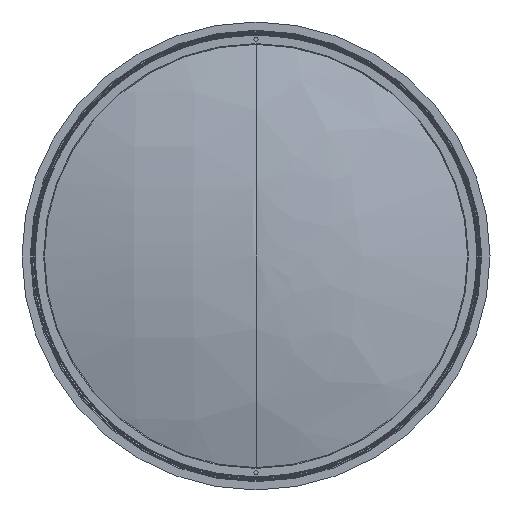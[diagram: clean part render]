
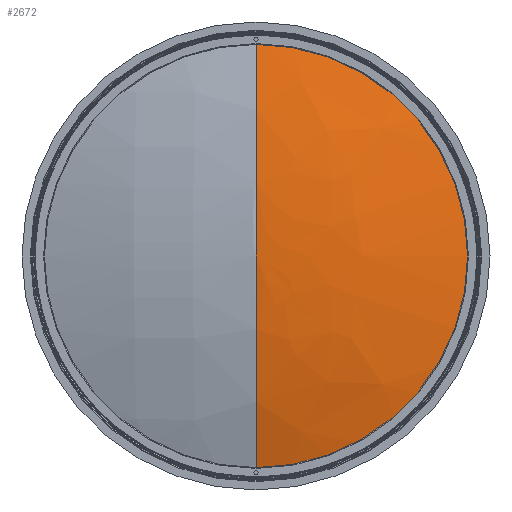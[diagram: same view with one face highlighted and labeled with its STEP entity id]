
A CAD part, left-side view. The second image highlights one B-rep face of the part: STEP entity #2672.
In plain terms, the highlighted free-form (B-spline) face has degree [2, 2] with [3, 5] control points.
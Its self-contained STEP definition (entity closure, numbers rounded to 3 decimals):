
#2672=ADVANCED_FACE('',(#5507),#5508,.F.);
#5507=FACE_OUTER_BOUND('',#18676,.T.);
#5508=(B_SPLINE_SURFACE(2,2,((#18678,#18679,#18680,#18681,#18682),(#18683,#18684,#18685,#18686,#18687),(#18688,#18689,#18690,#18691,#18692)),.UNSPECIFIED.,.F.,.F.,.F.)B_SPLINE_SURFACE_WITH_KNOTS((3,3),(3,2,3),(0.0,0.101),(0.0,0.25,0.5),.UNSPECIFIED.)RATIONAL_B_SPLINE_SURFACE(((1.0,0.707,1.0,0.707,1.0),(0.94,0.665,0.94,0.665,0.94),(0.904,0.639,0.904,0.639,0.904)))BOUNDED_SURFACE()REPRESENTATION_ITEM('')GEOMETRIC_REPRESENTATION_ITEM()SURFACE());
#18676=EDGE_LOOP('',(#26474,#26475,#26476));
#18678=CARTESIAN_POINT('',(-394.621,-683.368,0.));
#18679=CARTESIAN_POINT('',(-394.621,-683.368,0.));
#18680=CARTESIAN_POINT('',(-394.621,-683.368,0.));
#18681=CARTESIAN_POINT('',(-394.621,-683.368,0.));
#18682=CARTESIAN_POINT('',(-394.621,-683.368,0.));
#18683=CARTESIAN_POINT('',(-395.622,-656.145,0.));
#18684=CARTESIAN_POINT('',(-395.622,-656.145,-27.24));
#18685=CARTESIAN_POINT('',(-394.351,-683.355,-27.24));
#18686=CARTESIAN_POINT('',(-393.08,-710.565,-27.24));
#18687=CARTESIAN_POINT('',(-393.08,-710.565,0.));
#18688=CARTESIAN_POINT('',(-404.737,-630.475,0.));
#18689=CARTESIAN_POINT('',(-404.737,-630.475,-53.308));
#18690=CARTESIAN_POINT('',(-402.249,-683.724,-53.308));
#18691=CARTESIAN_POINT('',(-399.761,-736.974,-53.308));
#18692=CARTESIAN_POINT('',(-399.761,-736.974,0.));
#26474=ORIENTED_EDGE('',*,*,#32847,.F.);
#26475=ORIENTED_EDGE('',*,*,#32849,.T.);
#26476=ORIENTED_EDGE('',*,*,#32846,.F.);
#32846=EDGE_CURVE('',#37527,#37511,#37528,.T.);
#32847=EDGE_CURVE('',#37510,#37527,#37529,.T.);
#32849=EDGE_CURVE('',#37510,#37511,#37531,.T.);
#37510=VERTEX_POINT('',#53586);
#37511=VERTEX_POINT('',#53587);
#37527=VERTEX_POINT('',#53605);
#37528=CIRCLE('',#53606,177.6);
#37529=CIRCLE('',#53607,177.6);
#37531=CIRCLE('',#53609,53.308);
#53586=CARTESIAN_POINT('',(-399.761,-736.974,0.0));
#53587=CARTESIAN_POINT('',(-404.737,-630.475,0.));
#53605=CARTESIAN_POINT('',(-394.621,-683.368,0.));
#53606=AXIS2_PLACEMENT_3D('',#62028,#62029,#62030);
#53607=AXIS2_PLACEMENT_3D('',#62031,#62032,#62033);
#53609=AXIS2_PLACEMENT_3D('',#62034,#62035,#62036);
#62028=CARTESIAN_POINT('',(-572.101,-689.897,0.));
#62029=DIRECTION('',(0.,0.,1.0));
#62030=DIRECTION('',(0.999,0.037,0.));
#62031=CARTESIAN_POINT('',(-571.936,-693.416,0.0));
#62032=DIRECTION('',(0.0,0.0,1.0));
#62033=DIRECTION('',(0.969,-0.245,0.0));
#62034=CARTESIAN_POINT('',(-402.249,-683.724,0.0));
#62035=DIRECTION('',(0.999,0.047,0.));
#62036=DIRECTION('',(0.047,-0.999,0.));
